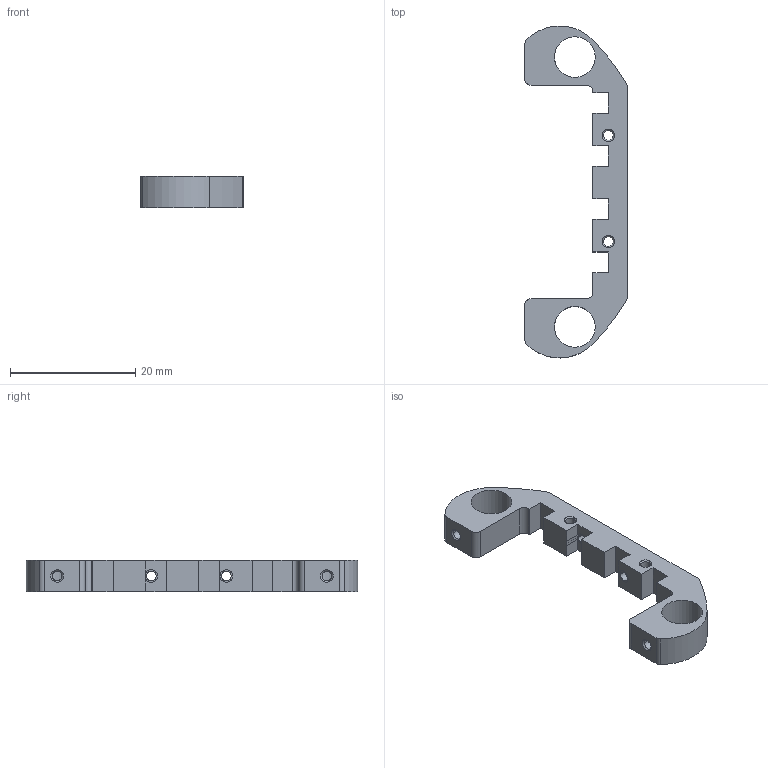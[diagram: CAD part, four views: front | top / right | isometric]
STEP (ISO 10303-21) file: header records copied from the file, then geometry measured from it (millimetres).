
FILE_DESCRIPTION(/* description */ ('VariCAD 2010-3.03 AP-214'),/* implementation_level */ '2;1');
FILE_NAME(/* name */ '0353-19-76',/* time_stamp */ '2011-03-01T15:06:29-07:00',/* author */ (''),/* organization */ (''),/* preprocessor_version */ 'ST-DEVELOPER v12',/* originating_system */ 'VariCAD 2010-3.03; kernel version (20100102)',/* authorisation */ '');
FILE_SCHEMA (('AUTOMOTIVE_DESIGN'));
Length unit declared in the file: millimetre
Products named in the file (1): Part
Bounding box: 16.39 x 53.09 x 5 mm (x, y, z)
Volume: 1558.1 mm3; surface area: 2143.9 mm2
Topology: 7 solids, 7 shells, 97 faces, 246 edges, 156 vertices
Faces by surface type: cylinder 54, plane 31, cone 12
Entity records: 3887 total; most frequent: CARTESIAN_POINT 663, DIRECTION 540, ORIENTED_EDGE 492, EDGE_CURVE 246, AXIS2_PLACEMENT_3D 201, VERTEX_POINT 156, LINE 138, VECTOR 138
